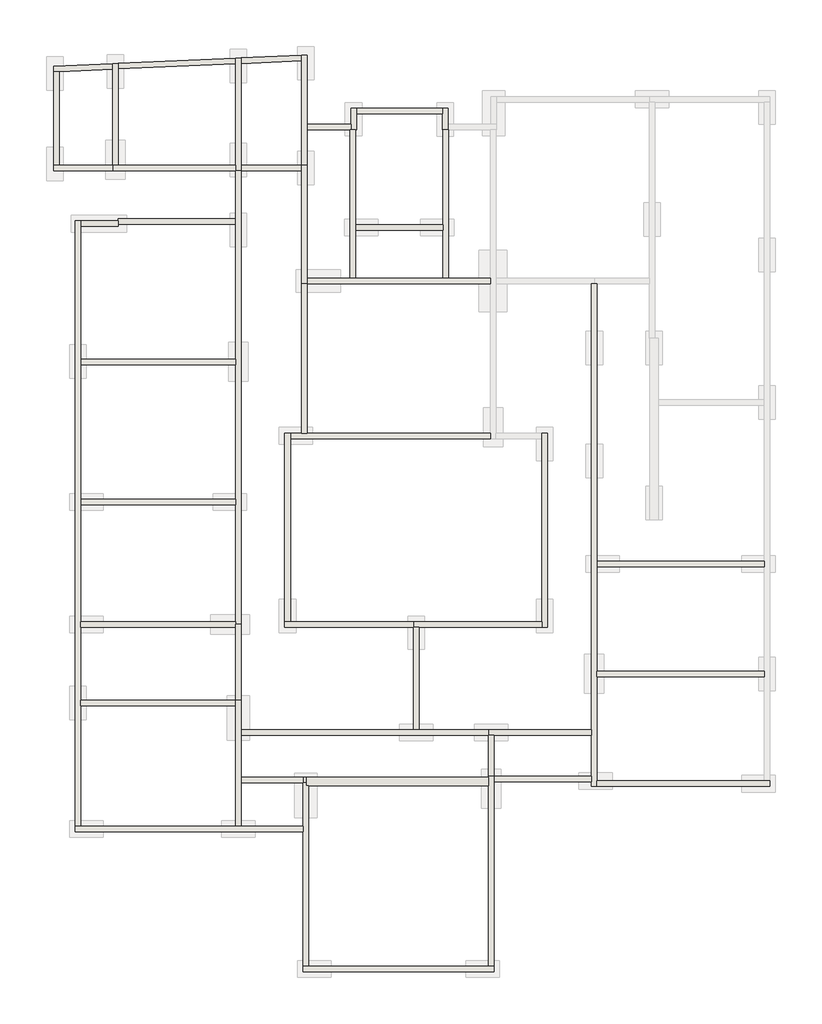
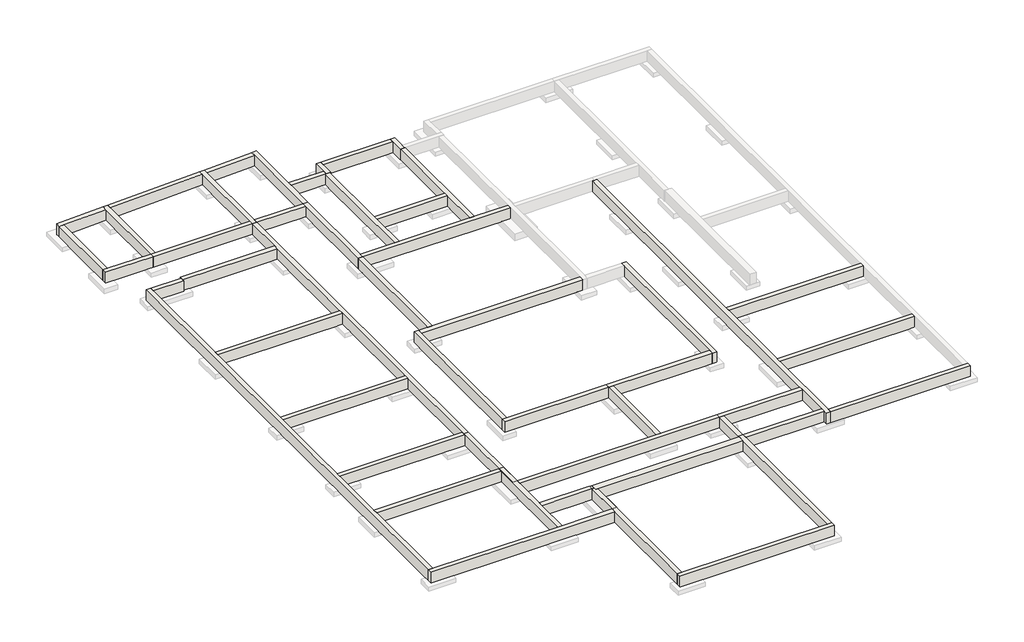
# One storey, part 1 of 2: 54 walls.
"""IFC4 building model written with IfcOpenShell, lengths in millimetres."""

from ifc_helpers import new_model, si_unit, frame, origin, place, context, project, spatial, polyline, outline, extrude, faceted_brep, element, save

model = new_model("IFC4")

# Units and contexts
model_context = context("Model", 3, world=origin())
ifc_project = project(units=[si_unit("LENGTHUNIT", "METRE", prefix="MILLI")], contexts=[model_context])

# Site, building, storey
site = spatial("IfcSite", under=ifc_project)
building = spatial("IfcBuilding", under=site)
storey = spatial("IfcBuildingStorey", under=building, Name="Arase fondations", Elevation=-670.0)

# Walls
placement = place(None, origin())
element("IfcWall", 1, ObjectType="Ext. longrine 20 x 50", at=placement, inside=storey, context=model_context, shape_type="SweptSolid", body=[
    extrude(outline(polyline([(-8265.5383156, -5705.3410127), (-13820.5383156, -5705.3410127), (-13820.5383156, -5505.3410127), (-8265.5383156, -5505.3410127), (-8265.5383156, -5705.3410127)])), frame((0.0, 0.0, -670.0), z_axis=(0.0, 0.0, 1.0), x_axis=(1.0, 0.0, 0.0)), (0.0, 0.0, 1.0), 500.0),
])
element("IfcWall", 2, ObjectType="Ext. longrine 20 x 50", at=placement, inside=storey, context=model_context, shape_type="Brep", body=[
    faceted_brep([(-5838.9922803, -18073.3410127, -670.0), (1018.0077197, -18073.3410127, -670.0), (1018.0077197, -18073.3410127, -170.0), (-5838.9922803, -18073.3410127, -170.0), (-5838.9922803, -17873.3410127, -670.0), (-5838.9922803, -17873.3410127, -170.0), (-5638.9922803, -17873.3410127, -170.0), (818.0077197, -17873.3410127, -170.0), (1018.0077197, -17873.3410127, -170.0), (1018.0077197, -17873.3410127, -670.0), (818.0077197, -17873.3410127, -670.0), (-5638.9922803, -17873.3410127, -670.0)], [[[0, 1, 2, 3]], [[4, 5, 6, 7, 8, 9, 10, 11]], [[1, 0, 4, 11, 10, 9]], [[3, 2, 8, 7, 6, 5]], [[2, 1, 9, 8]], [[0, 3, 5, 4]]]),
])
element("IfcWall", 3, ObjectType="Ext. longrine 20 x 50", at=placement, inside=storey, context=model_context, shape_type="Brep", body=[
    faceted_brep([(818.0077197, -11046.3410127, -670.0), (818.0077197, -11095.3410127, -670.0), (818.0077197, -11395.3410127, -670.0), (818.0077197, -17873.3410127, -670.0), (818.0077197, -17873.3410127, -170.0), (818.0077197, -11395.3410127, -170.0), (818.0077197, -11095.3410127, -170.0), (818.0077197, -11046.3410127, -170.0), (1018.0077197, -11046.3410127, -670.0), (1018.0077197, -11046.3410127, -170.0), (1018.0077197, -11246.3410127, -170.0), (1018.0077197, -17873.3410127, -170.0), (1018.0077197, -17873.3410127, -670.0), (1018.0077197, -11246.3410127, -670.0)], [[[0, 1, 2, 3, 4, 5, 6, 7]], [[8, 9, 10, 11, 12, 13]], [[3, 2, 1, 0, 8, 13, 12]], [[7, 6, 5, 4, 11, 10, 9]], [[4, 3, 12, 11]], [[0, 7, 9, 8]]]),
])
element("IfcWall", 4, ObjectType="Ext. longrine 20 x 50", at=placement, inside=storey, context=model_context, shape_type="Brep", body=[
    faceted_brep([(-5638.9922803, -17873.3410127, -670.0), (-5638.9922803, -11395.3410127, -670.0), (-5638.9922803, -11395.3410127, -170.0), (-5638.9922803, -17873.3410127, -170.0), (-5838.9922803, -17873.3410127, -670.0), (-5838.9922803, -17873.3410127, -170.0), (-5838.9922803, -13045.3410127, -170.0), (-5838.9922803, -12845.3410127, -170.0), (-5838.9922803, -11295.3410127, -170.0), (-5838.9922803, -11295.3410127, -670.0), (-5838.9922803, -12845.3410127, -670.0), (-5838.9922803, -13045.3410127, -670.0), (-5738.9922803, -11295.3410127, -670.0), (-5738.9922803, -11395.3410127, -670.0), (-5738.9922803, -11395.3410127, -170.0), (-5738.9922803, -11295.3410127, -170.0)], [[[0, 1, 2, 3]], [[4, 5, 6, 7, 8, 9, 10, 11]], [[1, 0, 4, 11, 10, 9, 12, 13]], [[3, 2, 14, 15, 8, 7, 6, 5]], [[0, 3, 5, 4]], [[2, 1, 13, 14]], [[13, 12, 15, 14]], [[12, 9, 8, 15]]]),
])
element("IfcWall", 5, ObjectType="Ext. longrine 20 x 50", at=placement, inside=storey, context=model_context, shape_type="Brep", body=[
    faceted_brep([(-5838.9922803, -12845.3410127, -670.0), (-8065.5383156, -12845.3410127, -670.0), (-8265.5383156, -12845.3410127, -670.0), (-13820.5383156, -12845.3410127, -670.0), (-14020.5383156, -12845.3410127, -670.0), (-14020.5383156, -12845.3410127, -170.0), (-13820.5383156, -12845.3410127, -170.0), (-8265.5383156, -12845.3410127, -170.0), (-8065.5383156, -12845.3410127, -170.0), (-5838.9922803, -12845.3410127, -170.0), (-5838.9922803, -13045.3410127, -670.0), (-5838.9922803, -13045.3410127, -170.0), (-14020.5383156, -13045.3410127, -170.0), (-14020.5383156, -13045.3410127, -670.0)], [[[0, 1, 2, 3, 4, 5, 6, 7, 8, 9]], [[10, 11, 12, 13]], [[4, 3, 2, 1, 0, 10, 13]], [[9, 8, 7, 6, 5, 12, 11]], [[0, 9, 11, 10]], [[5, 4, 13, 12]]]),
])
element("IfcWall", 6, ObjectType="Ext. longrine 20 x 50", at=placement, inside=storey, context=model_context, shape_type="Brep", body=[
    faceted_brep([(-13820.5383156, -12845.3410127, -670.0), (-13820.5383156, -8528.3410127, -670.0), (-13820.5383156, -8328.3410127, -670.0), (-13820.5383156, -1313.3410127, -670.0), (-13820.5383156, -1113.3410127, -670.0), (-13820.5383156, 3716.6589873, -670.0), (-13820.5383156, 3916.6589873, -670.0), (-13820.5383156, 8675.6589873, -670.0), (-13820.5383156, 8875.6589873, -670.0), (-13820.5383156, 8875.6589873, -170.0), (-13820.5383156, 8675.6589873, -170.0), (-13820.5383156, 3916.6589873, -170.0), (-13820.5383156, 3716.6589873, -170.0), (-13820.5383156, -1113.3410127, -170.0), (-13820.5383156, -1313.3410127, -170.0), (-13820.5383156, -8328.3410127, -170.0), (-13820.5383156, -8528.3410127, -170.0), (-13820.5383156, -12845.3410127, -170.0), (-14020.5383156, -12845.3410127, -670.0), (-14020.5383156, -12845.3410127, -170.0), (-14020.5383156, 8875.6589873, -170.0), (-14020.5383156, 8875.6589873, -670.0)], [[[0, 1, 2, 3, 4, 5, 6, 7, 8, 9, 10, 11, 12, 13, 14, 15, 16, 17]], [[18, 19, 20, 21]], [[8, 7, 6, 5, 4, 3, 2, 1, 0, 18, 21]], [[17, 16, 15, 14, 13, 12, 11, 10, 9, 20, 19]], [[0, 17, 19, 18]], [[9, 8, 21, 20]]]),
])
element("IfcWall", 7, ObjectType="Ext. longrine 20 x 50", at=placement, inside=storey, context=model_context, shape_type="Brep", body=[
    faceted_brep([(-8065.5383156, -12845.3410127, -670.0), (-8065.5383156, -11295.3410127, -670.0), (-8065.5383156, -11095.3410127, -670.0), (-8065.5383156, -9580.3410127, -670.0), (-8065.5383156, -9380.3410127, -670.0), (-8065.5383156, -8328.3410127, -670.0), (-8065.5383156, -8328.3410127, -170.0), (-8065.5383156, -9380.3410127, -170.0), (-8065.5383156, -9580.3410127, -170.0), (-8065.5383156, -11095.3410127, -170.0), (-8065.5383156, -11295.3410127, -170.0), (-8065.5383156, -12845.3410127, -170.0), (-8265.5383156, -12845.3410127, -670.0), (-8265.5383156, -12845.3410127, -170.0), (-8265.5383156, -8528.3410127, -170.0), (-8265.5383156, -8328.3410127, -170.0), (-8265.5383156, -8328.3410127, -670.0), (-8265.5383156, -8528.3410127, -670.0)], [[[0, 1, 2, 3, 4, 5, 6, 7, 8, 9, 10, 11]], [[12, 13, 14, 15, 16, 17]], [[5, 4, 3, 2, 1, 0, 12, 17, 16]], [[11, 10, 9, 8, 7, 6, 15, 14, 13]], [[0, 11, 13, 12]], [[6, 5, 16, 15]]]),
])
element("IfcWall", 8, ObjectType="Ext. longrine 20 x 50", at=placement, inside=storey, context=model_context, shape_type="Brep", body=[
    faceted_brep([(-5738.9922803, -11095.3410127, -670.0), (-8065.5383156, -11095.3410127, -670.0), (-8065.5383156, -11095.3410127, -170.0), (-5738.9922803, -11095.3410127, -170.0), (-5738.9922803, -11295.3410127, -670.0), (-5738.9922803, -11295.3410127, -170.0), (-5838.9922803, -11295.3410127, -170.0), (-8065.5383156, -11295.3410127, -170.0), (-8065.5383156, -11295.3410127, -670.0), (-5838.9922803, -11295.3410127, -670.0)], [[[0, 1, 2, 3]], [[4, 5, 6, 7, 8, 9]], [[1, 0, 4, 9, 8]], [[3, 2, 7, 6, 5]], [[0, 3, 5, 4]], [[2, 1, 8, 7]]]),
])
element("IfcWall", 9, ObjectType="Ext. longrine 20 x 50", at=placement, inside=storey, context=model_context, shape_type="SweptSolid", body=[
    extrude(outline(polyline([(-5638.9922803, -11395.3410127), (-5638.9922803, -12845.3410127), (-5838.9922803, -12845.3410127), (-5838.9922803, -11395.3410127), (-5638.9922803, -11395.3410127)])), frame((0.0, 0.0, -670.0), z_axis=(0.0, 0.0, 1.0), x_axis=(1.0, 0.0, 0.0)), (0.0, 0.0, 1.0), 500.0),
])
element("IfcWall", 10, ObjectType="Ext. longrine 20 x 50", at=placement, inside=storey, context=model_context, shape_type="SweptSolid", body=[
    extrude(outline(polyline([(1018.0077197, -11046.3410127), (4519.0077197, -11046.3410127), (4519.0077197, -11246.3410127), (1018.0077197, -11246.3410127), (1018.0077197, -11046.3410127)])), frame((0.0, 0.0, -670.0), z_axis=(0.0, 0.0, 1.0), x_axis=(1.0, 0.0, 0.0)), (0.0, 0.0, 1.0), 500.0),
])
element("IfcWall", 11, ObjectType="Ext. longrine 20 x 50", at=placement, inside=storey, context=model_context, shape_type="Brep", body=[
    faceted_brep([(10919.0077197, -11219.3410127, -670.0), (10719.0077197, -11219.3410127, -670.0), (4719.0077197, -11219.3410127, -670.0), (4719.0077197, -11219.3410127, -170.0), (10719.0077197, -11219.3410127, -170.0), (10919.0077197, -11219.3410127, -170.0), (10919.0077197, -11419.3410127, -670.0), (10919.0077197, -11419.3410127, -170.0), (4719.0077197, -11419.3410127, -170.0), (4719.0077197, -11419.3410127, -670.0)], [[[0, 1, 2, 3, 4, 5]], [[6, 7, 8, 9]], [[2, 1, 0, 6, 9]], [[3, 2, 9, 8]], [[5, 4, 3, 8, 7]], [[0, 5, 7, 6]]]),
])
element("IfcWall", 12, ObjectType="Ext. longrine 20 x 50", at=placement, inside=storey, context=model_context, shape_type="Brep", body=[
    faceted_brep([(4519.0077197, -9380.3410127, -670.0), (818.0077197, -9380.3410127, -670.0), (818.0077197, -9380.3410127, -170.0), (4519.0077197, -9380.3410127, -170.0), (4519.0077197, -9580.3410127, -670.0), (4519.0077197, -9580.3410127, -170.0), (1018.0077197, -9580.3410127, -170.0), (818.0077197, -9580.3410127, -170.0), (818.0077197, -9580.3410127, -670.0), (1018.0077197, -9580.3410127, -670.0)], [[[0, 1, 2, 3]], [[4, 5, 6, 7, 8, 9]], [[1, 0, 4, 9, 8]], [[3, 2, 7, 6, 5]], [[2, 1, 8, 7]], [[0, 3, 5, 4]]]),
])
element("IfcWall", 13, ObjectType="Ext. longrine 20 x 50", at=placement, inside=storey, context=model_context, shape_type="SweptSolid", body=[
    extrude(outline(polyline([(4719.0077197, -7278.3410127), (10719.0077197, -7278.3410127), (10719.0077197, -7478.3410127), (4719.0077197, -7478.3410127), (4719.0077197, -7278.3410127)])), frame((0.0, 0.0, -670.0), z_axis=(0.0, 0.0, 1.0), x_axis=(1.0, 0.0, 0.0)), (0.0, 0.0, 1.0), 500.0),
])
element("IfcWall", 14, ObjectType="Ext. longrine 20 x 50", at=placement, inside=storey, context=model_context, shape_type="SweptSolid", body=[
    extrude(outline(polyline([(4719.0077197, -3333.3410127), (10719.0077197, -3333.3410127), (10719.0077197, -3533.3410127), (4719.0077197, -3533.3410127), (4719.0077197, -3333.3410127)])), frame((0.0, 0.0, -670.0), z_axis=(0.0, 0.0, 1.0), x_axis=(1.0, 0.0, 0.0)), (0.0, 0.0, 1.0), 500.0),
])
element("IfcWall", 15, ObjectType="Ext. longrine 20 x 50", at=placement, inside=storey, context=model_context, shape_type="SweptSolid", body=[
    extrude(outline(polyline([(4719.0077197, -7278.3410127), (10719.0077197, -7278.3410127), (10719.0077197, -7478.3410127), (4719.0077197, -7478.3410127), (4719.0077197, -7278.3410127)])), frame((0.0, 0.0, -670.0), z_axis=(0.0, 0.0, 1.0), x_axis=(1.0, 0.0, 0.0)), (0.0, 0.0, 1.0), 500.0),
])
element("IfcWall", 16, ObjectType="Ext. longrine 20 x 50", at=placement, inside=storey, context=model_context, shape_type="Brep", body=[
    faceted_brep([(4519.0077197, 6616.6589873, -670.0), (4519.0077197, -9380.3410127, -670.0), (4519.0077197, -9580.3410127, -670.0), (4519.0077197, -11419.3410127, -670.0), (4519.0077197, -11419.3410127, -170.0), (4519.0077197, -9580.3410127, -170.0), (4519.0077197, -9380.3410127, -170.0), (4519.0077197, 6616.6589873, -170.0), (4719.0077197, 6616.6589873, -670.0), (4719.0077197, 6616.6589873, -170.0), (4719.0077197, -3333.3410127, -170.0), (4719.0077197, -3533.3410127, -170.0), (4719.0077197, -7278.3410127, -170.0), (4719.0077197, -7478.3410127, -170.0), (4719.0077197, -11419.3410127, -170.0), (4719.0077197, -11419.3410127, -670.0), (4719.0077197, -7478.3410127, -670.0), (4719.0077197, -7278.3410127, -670.0), (4719.0077197, -3533.3410127, -670.0), (4719.0077197, -3333.3410127, -670.0), (4619.0077197, 6616.6589873, -670.0), (4619.0077197, 6616.6589873, -170.0)], [[[0, 1, 2, 3, 4, 5, 6, 7]], [[8, 9, 10, 11, 12, 13, 14, 15, 16, 17, 18, 19]], [[3, 2, 1, 0, 20, 8, 19, 18, 17, 16, 15]], [[4, 3, 15, 14]], [[7, 6, 5, 4, 14, 13, 12, 11, 10, 9, 21]], [[0, 7, 21, 9, 8, 20]]]),
])
element("IfcWall", 17, ObjectType="Ext. longrine 20 x 50", at=placement, inside=storey, context=model_context, shape_type="Brep", body=[
    faceted_brep([(2935.0077197, -5705.3410127, -670.0), (2935.0077197, 1261.6589873, -670.0), (2935.0077197, 1261.6589873, -170.0), (2935.0077197, -5705.3410127, -170.0), (2735.0077197, -5705.3410127, -670.0), (2735.0077197, -5705.3410127, -170.0), (2735.0077197, -5505.3410127, -170.0), (2735.0077197, 1061.6589873, -170.0), (2735.0077197, 1261.6589873, -170.0), (2735.0077197, 1261.6589873, -670.0), (2735.0077197, 1061.6589873, -670.0), (2735.0077197, -5505.3410127, -670.0)], [[[0, 1, 2, 3]], [[4, 5, 6, 7, 8, 9, 10, 11]], [[1, 0, 4, 11, 10, 9]], [[3, 2, 8, 7, 6, 5]], [[0, 3, 5, 4]], [[2, 1, 9, 8]]]),
])
element("IfcWall", 18, ObjectType="Ext. longrine 20 x 50", at=placement, inside=storey, context=model_context, shape_type="Brep", body=[
    faceted_brep([(2735.0077197, -5505.3410127, -670.0), (-1873.2652979, -5505.3410127, -670.0), (-1873.2652979, -5505.3410127, -170.0), (2735.0077197, -5505.3410127, -170.0), (2735.0077197, -5705.3410127, -670.0), (2735.0077197, -5705.3410127, -170.0), (-1673.2652979, -5705.3410127, -170.0), (-1873.2652979, -5705.3410127, -170.0), (-1873.2652979, -5705.3410127, -670.0), (-1673.2652979, -5705.3410127, -670.0)], [[[0, 1, 2, 3]], [[4, 5, 6, 7, 8, 9]], [[1, 0, 4, 9, 8]], [[3, 2, 7, 6, 5]], [[0, 3, 5, 4]], [[2, 1, 8, 7]]]),
])
element("IfcWall", 19, ObjectType="Ext. longrine 20 x 50", at=placement, inside=storey, context=model_context, shape_type="SweptSolid", body=[
    extrude(outline(polyline([(-1873.2652979, -9380.3410127), (-1873.2652979, -5705.3410127), (-1673.2652979, -5705.3410127), (-1673.2652979, -9380.3410127), (-1873.2652979, -9380.3410127)])), frame((0.0, 0.0, -670.0), z_axis=(0.0, 0.0, 1.0), x_axis=(1.0, 0.0, 0.0)), (0.0, 0.0, 1.0), 500.0),
])
element("IfcWall", 20, ObjectType="Ext. longrine 20 x 50", at=placement, inside=storey, context=model_context, shape_type="Brep", body=[
    faceted_brep([(-1873.2652979, -5505.3410127, -670.0), (-6294.9922803, -5505.3410127, -670.0), (-6494.9922803, -5505.3410127, -670.0), (-6494.9922803, -5505.3410127, -330.0), (-6494.9922803, -5505.3410127, -170.0), (-6294.9922803, -5505.3410127, -170.0), (-1873.2652979, -5505.3410127, -170.0), (-1873.2652979, -5705.3410127, -670.0), (-1873.2652979, -5705.3410127, -170.0), (-6494.9922803, -5705.3410127, -170.0), (-6494.9922803, -5705.3410127, -330.0), (-6494.9922803, -5705.3410127, -670.0)], [[[0, 1, 2, 3, 4, 5, 6]], [[7, 8, 9, 10, 11]], [[2, 1, 0, 7, 11]], [[6, 5, 4, 9, 8]], [[0, 6, 8, 7]], [[4, 3, 2, 11, 10, 9]]]),
])
element("IfcWall", 21, ObjectType="Ext. longrine 20 x 50", at=placement, inside=storey, context=model_context, shape_type="Brep", body=[
    faceted_brep([(-6294.9922803, -5505.3410127, -670.0), (-6294.9922803, 1061.6589873, -670.0), (-6294.9922803, 1261.6589873, -670.0), (-6294.9922803, 1261.6589873, -170.0), (-6294.9922803, 1061.6589873, -170.0), (-6294.9922803, -5505.3410127, -170.0), (-6494.9922803, -5505.3410127, -670.0), (-6494.9922803, -5505.3410127, -170.0), (-6494.9922803, 1261.6589873, -170.0), (-6494.9922803, 1261.6589873, -670.0)], [[[0, 1, 2, 3, 4, 5]], [[6, 7, 8, 9]], [[2, 1, 0, 6, 9]], [[5, 4, 3, 8, 7]], [[0, 5, 7, 6]], [[3, 2, 9, 8]]]),
])
element("IfcWall", 22, ObjectType="Ext. longrine 20 x 50", at=placement, inside=storey, context=model_context, shape_type="Brep", body=[
    faceted_brep([(818.0077197, -9380.3410127, -670.0), (-1673.2652979, -9380.3410127, -670.0), (-1873.2652979, -9380.3410127, -670.0), (-8065.5383156, -9380.3410127, -670.0), (-8065.5383156, -9380.3410127, -170.0), (-1873.2652979, -9380.3410127, -170.0), (-1673.2652979, -9380.3410127, -170.0), (818.0077197, -9380.3410127, -170.0), (818.0077197, -9580.3410127, -670.0), (818.0077197, -9580.3410127, -170.0), (-8065.5383156, -9580.3410127, -170.0), (-8065.5383156, -9580.3410127, -670.0)], [[[0, 1, 2, 3, 4, 5, 6, 7]], [[8, 9, 10, 11]], [[3, 2, 1, 0, 8, 11]], [[7, 6, 5, 4, 10, 9]], [[4, 3, 11, 10]], [[0, 7, 9, 8]]]),
])
element("IfcWall", 23, ObjectType="Ext. longrine 20 x 50", at=placement, inside=storey, context=model_context, shape_type="SweptSolid", body=[
    extrude(outline(polyline([(818.0077197, -11046.3410127), (818.0077197, -9580.3410127), (1018.0077197, -9580.3410127), (1018.0077197, -11046.3410127), (818.0077197, -11046.3410127)])), frame((0.0, 0.0, -670.0), z_axis=(0.0, 0.0, 1.0), x_axis=(1.0, 0.0, 0.0)), (0.0, 0.0, 1.0), 500.0),
])
element("IfcWall", 24, ObjectType="Ext. longrine 20 x 50", at=placement, inside=storey, context=model_context, shape_type="Brep", body=[
    faceted_brep([(-815.5383156, 12148.6589873, -670.0), (-815.5383156, 8741.6589873, -670.0), (-815.5383156, 8541.6589873, -670.0), (-815.5383156, 6816.6589873, -670.0), (-815.5383156, 6816.6589873, -170.0), (-815.5383156, 8541.6589873, -170.0), (-815.5383156, 8741.6589873, -170.0), (-815.5383156, 12148.6589873, -170.0), (-615.5383156, 12148.6589873, -670.0), (-615.5383156, 12148.6589873, -170.0), (-615.5383156, 6816.6589873, -170.0), (-615.5383156, 6816.6589873, -670.0)], [[[0, 1, 2, 3, 4, 5, 6, 7]], [[8, 9, 10, 11]], [[3, 2, 1, 0, 8, 11]], [[7, 6, 5, 4, 10, 9]], [[0, 7, 9, 8]], [[4, 3, 11, 10]]]),
])
element("IfcWall", 25, ObjectType="Ext. longrine 20 x 50", at=placement, inside=storey, context=model_context, shape_type="Brep", body=[
    faceted_brep([(-4155.5383156, 12148.6589873, -670.0), (-4155.5383156, 6816.6589873, -670.0), (-4155.5383156, 6816.6589873, -170.0), (-4155.5383156, 12148.6589873, -170.0), (-3955.5383156, 12148.6589873, -670.0), (-3955.5383156, 12148.6589873, -170.0), (-3955.5383156, 8741.6589873, -170.0), (-3955.5383156, 8541.6589873, -170.0), (-3955.5383156, 6816.6589873, -170.0), (-3955.5383156, 6816.6589873, -670.0), (-3955.5383156, 8541.6589873, -670.0), (-3955.5383156, 8741.6589873, -670.0)], [[[0, 1, 2, 3]], [[4, 5, 6, 7, 8, 9, 10, 11]], [[1, 0, 4, 11, 10, 9]], [[3, 2, 8, 7, 6, 5]], [[0, 3, 5, 4]], [[2, 1, 9, 8]]]),
])
element("IfcWall", 26, ObjectType="Ext. longrine 20 x 50", at=placement, inside=storey, context=model_context, shape_type="SweptSolid", body=[
    extrude(outline(polyline([(-3955.5383156, 8741.6589873), (-815.5383156, 8741.6589873), (-815.5383156, 8541.6589873), (-3955.5383156, 8541.6589873), (-3955.5383156, 8741.6589873)])), frame((0.0, 0.0, -670.0), z_axis=(0.0, 0.0, 1.0), x_axis=(1.0, 0.0, 0.0)), (0.0, 0.0, 1.0), 500.0),
])
element("IfcWall", 27, ObjectType="Ext. longrine 20 x 50", at=placement, inside=storey, context=model_context, shape_type="Brep", body=[
    faceted_brep([(-5886.5383156, 10866.6589873, -670.0), (-5886.5383156, 10666.6589873, -670.0), (-5886.5383156, 6616.6589873, -670.0), (-5886.5383156, 6616.6589873, -170.0), (-5886.5383156, 10666.6589873, -170.0), (-5886.5383156, 10866.6589873, -170.0), (-5686.5383156, 10866.6589873, -670.0), (-5686.5383156, 10866.6589873, -170.0), (-5686.5383156, 6616.6589873, -170.0), (-5686.5383156, 6616.6589873, -670.0)], [[[0, 1, 2, 3, 4, 5]], [[6, 7, 8, 9]], [[2, 1, 0, 6, 9]], [[3, 2, 9, 8]], [[5, 4, 3, 8, 7]], [[0, 5, 7, 6]]]),
])
element("IfcWall", 28, ObjectType="Ext. longrine 20 x 50", at=placement, inside=storey, context=model_context, shape_type="Brep", body=[
    faceted_brep([(-8265.5383156, 8946.6589873, -670.0), (-12471.5383156, 8946.6589873, -670.0), (-12471.5383156, 8946.6589873, -170.0), (-8265.5383156, 8946.6589873, -170.0), (-8265.5383156, 8746.6589873, -670.0), (-8265.5383156, 8746.6589873, -170.0), (-12471.5383156, 8746.6589873, -170.0), (-12471.5383156, 8746.6589873, -670.0), (-12471.5383156, 8875.6589873, -670.0), (-12471.5383156, 8875.6589873, -170.0)], [[[0, 1, 2, 3]], [[4, 5, 6, 7]], [[1, 0, 4, 7, 8]], [[2, 1, 8, 7, 6, 9]], [[3, 2, 9, 6, 5]], [[0, 3, 5, 4]]]),
])
element("IfcWall", 29, ObjectType="Ext. longrine 20 x 50", at=placement, inside=storey, context=model_context, shape_type="Brep", body=[
    faceted_brep([(-8265.5383156, 14710.7410678, -670.0), (-8265.5383156, 14510.5494592, -670.0), (-8265.5383156, 10866.6589873, -670.0), (-8265.5383156, 10666.6589873, -670.0), (-8265.5383156, 10666.6589873, -170.0), (-8265.5383156, 10866.6589873, -170.0), (-8265.5383156, 14510.5494592, -170.0), (-8265.5383156, 14710.7410678, -170.0), (-8065.5383156, 14719.497789, -670.0), (-8065.5383156, 14719.497789, -170.0), (-8065.5383156, 14519.3061804, -170.0), (-8065.5383156, 10866.6589873, -170.0), (-8065.5383156, 10666.6589873, -170.0), (-8065.5383156, 10666.6589873, -670.0), (-8065.5383156, 10866.6589873, -670.0), (-8065.5383156, 14519.3061804, -670.0)], [[[0, 1, 2, 3, 4, 5, 6, 7]], [[8, 9, 10, 11, 12, 13, 14, 15]], [[3, 2, 1, 0, 8, 15, 14, 13]], [[7, 6, 5, 4, 12, 11, 10, 9]], [[4, 3, 13, 12]], [[0, 7, 9, 8]]]),
])
element("IfcWall", 30, ObjectType="Ext. longrine 20 x 50", at=placement, inside=storey, context=model_context, shape_type="Brep", body=[
    faceted_brep([(-5686.5383156, 10866.6589873, -670.0), (-5686.5383156, 12148.6589873, -670.0), (-5686.5383156, 12348.6589873, -670.0), (-5686.5383156, 14823.6589873, -670.0), (-5686.5383156, 14823.6589873, -170.0), (-5686.5383156, 12714.9226283, -170.0), (-5686.5383156, 12526.6719066, -170.0), (-5686.5383156, 12348.6589873, -170.0), (-5686.5383156, 12148.6589873, -170.0), (-5686.5383156, 10866.6589873, -170.0), (-5886.5383156, 10866.6589873, -670.0), (-5886.5383156, 10866.6589873, -170.0), (-5886.5383156, 14614.7106575, -170.0), (-5886.5383156, 14814.9022661, -170.0), (-5886.5383156, 14814.9022661, -670.0), (-5886.5383156, 14614.7106575, -670.0)], [[[0, 1, 2, 3, 4, 5, 6, 7, 8, 9]], [[10, 11, 12, 13, 14, 15]], [[3, 2, 1, 0, 10, 15, 14]], [[9, 8, 7, 6, 5, 4, 13, 12, 11]], [[0, 9, 11, 10]], [[4, 3, 14, 13]]]),
])
element("IfcWall", 31, ObjectType="Ext. longrine 20 x 50", at=placement, inside=storey, context=model_context, shape_type="SweptSolid", body=[
    extrude(outline(polyline([(-8065.5383156, 10866.6589873), (-5886.5383156, 10866.6589873), (-5886.5383156, 10666.6589873), (-8065.5383156, 10666.6589873), (-8065.5383156, 10866.6589873)])), frame((0.0, 0.0, -670.0), z_axis=(0.0, 0.0, 1.0), x_axis=(1.0, 0.0, 0.0)), (0.0, 0.0, 1.0), 500.0),
])
element("IfcWall", 32, ObjectType="Ext. longrine 20 x 50", at=placement, inside=storey, context=model_context, shape_type="Brep", body=[
    faceted_brep([(-8265.5383156, 10866.6589873, -670.0), (-12475.5383156, 10866.6589873, -670.0), (-12675.5383156, 10866.6589873, -670.0), (-12675.5383156, 10866.6589873, -170.0), (-12475.5383156, 10866.6589873, -170.0), (-8265.5383156, 10866.6589873, -170.0), (-8265.5383156, 10666.6589873, -670.0), (-8265.5383156, 10666.6589873, -170.0), (-12675.5383156, 10666.6589873, -170.0), (-12675.5383156, 10666.6589873, -670.0)], [[[0, 1, 2, 3, 4, 5]], [[6, 7, 8, 9]], [[2, 1, 0, 6, 9]], [[5, 4, 3, 8, 7]], [[0, 5, 7, 6]], [[3, 2, 9, 8]]]),
])
element("IfcWall", 33, ObjectType="Ext. longrine 20 x 50", at=placement, inside=storey, context=model_context, shape_type="Brep", body=[
    faceted_brep([(-8265.5383156, 10666.6589873, -670.0), (-8265.5383156, 8946.6589873, -670.0), (-8265.5383156, 8746.6589873, -670.0), (-8265.5383156, 3916.6589873, -670.0), (-8265.5383156, 3716.6589873, -670.0), (-8265.5383156, -1113.3410127, -670.0), (-8265.5383156, -1313.3410127, -670.0), (-8265.5383156, -5605.3410127, -670.0), (-8265.5383156, -5605.3410127, -170.0), (-8265.5383156, -1313.3410127, -170.0), (-8265.5383156, -1113.3410127, -170.0), (-8265.5383156, 3716.6589873, -170.0), (-8265.5383156, 3916.6589873, -170.0), (-8265.5383156, 8746.6589873, -170.0), (-8265.5383156, 8946.6589873, -170.0), (-8265.5383156, 10666.6589873, -170.0), (-8065.5383156, 10666.6589873, -670.0), (-8065.5383156, 10666.6589873, -170.0), (-8065.5383156, -5605.3410127, -170.0), (-8065.5383156, -5605.3410127, -670.0)], [[[0, 1, 2, 3, 4, 5, 6, 7, 8, 9, 10, 11, 12, 13, 14, 15]], [[16, 17, 18, 19]], [[7, 6, 5, 4, 3, 2, 1, 0, 16, 19]], [[8, 7, 19, 18]], [[15, 14, 13, 12, 11, 10, 9, 8, 18, 17]], [[0, 15, 17, 16]]]),
])
element("IfcWall", 34, ObjectType="Ext. longrine 20 x 50", at=placement, inside=storey, context=model_context, shape_type="Brep", body=[
    faceted_brep([(-12675.5383156, 14517.6553661, -670.0), (-12675.5383156, 14317.4637575, -670.0), (-12675.5383156, 10866.6589873, -670.0), (-12675.5383156, 10866.6589873, -170.0), (-12675.5383156, 14317.4637575, -170.0), (-12675.5383156, 14517.6553661, -170.0), (-12475.5383156, 14526.4120873, -670.0), (-12475.5383156, 14526.4120873, -170.0), (-12475.5383156, 14326.2204786, -170.0), (-12475.5383156, 10866.6589873, -170.0), (-12475.5383156, 10866.6589873, -670.0), (-12475.5383156, 14326.2204786, -670.0)], [[[0, 1, 2, 3, 4, 5]], [[6, 7, 8, 9, 10, 11]], [[2, 1, 0, 6, 11, 10]], [[5, 4, 3, 9, 8, 7]], [[3, 2, 10, 9]], [[0, 5, 7, 6]]]),
])
element("IfcWall", 35, ObjectType="Ext. longrine 20 x 50", at=placement, inside=storey, context=model_context, shape_type="Brep", body=[
    faceted_brep([(-14799.5383156, 10666.6589873, -670.0), (-12675.5383156, 10666.6589873, -670.0), (-12675.5383156, 10666.6589873, -170.0), (-14799.5383156, 10666.6589873, -170.0), (-14799.5383156, 10866.6589873, -670.0), (-14799.5383156, 10866.6589873, -170.0), (-14599.5383156, 10866.6589873, -170.0), (-12675.5383156, 10866.6589873, -170.0), (-12675.5383156, 10866.6589873, -670.0), (-14599.5383156, 10866.6589873, -670.0)], [[[0, 1, 2, 3]], [[4, 5, 6, 7, 8, 9]], [[1, 0, 4, 9, 8]], [[3, 2, 7, 6, 5]], [[2, 1, 8, 7]], [[0, 3, 5, 4]]]),
])
element("IfcWall", 36, ObjectType="Ext. longrine 20 x 50", at=placement, inside=storey, context=model_context, shape_type="Brep", body=[
    faceted_brep([(-12471.5383156, 8875.6589873, -670.0), (-13820.5383156, 8875.6589873, -670.0), (-13820.5383156, 8875.6589873, -170.0), (-12471.5383156, 8875.6589873, -170.0), (-12471.5383156, 8675.6589873, -670.0), (-12471.5383156, 8675.6589873, -170.0), (-13820.5383156, 8675.6589873, -170.0), (-13820.5383156, 8675.6589873, -670.0), (-12471.5383156, 8746.6589873, -670.0), (-12471.5383156, 8746.6589873, -170.0)], [[[0, 1, 2, 3]], [[4, 5, 6, 7]], [[1, 0, 8, 4, 7]], [[3, 2, 6, 5, 9]], [[0, 3, 9, 5, 4, 8]], [[2, 1, 7, 6]]]),
])
element("IfcWall", 37, ObjectType="Ext. longrine 20 x 50", at=placement, inside=storey, context=model_context, shape_type="SweptSolid", body=[
    extrude(outline(polyline([(-13820.5383156, 3916.6589873), (-8265.5383156, 3916.6589873), (-8265.5383156, 3716.6589873), (-13820.5383156, 3716.6589873), (-13820.5383156, 3916.6589873)])), frame((0.0, 0.0, -670.0), z_axis=(0.0, 0.0, 1.0), x_axis=(1.0, 0.0, 0.0)), (0.0, 0.0, 1.0), 500.0),
])
element("IfcWall", 38, ObjectType="Ext. longrine 30 x 50", at=placement, inside=storey, context=model_context, shape_type="Brep", body=[
    faceted_brep([(-5738.9922803, -11395.3410127, -670.0), (-5638.9922803, -11395.3410127, -670.0), (818.0077197, -11395.3410127, -670.0), (818.0077197, -11395.3410127, -170.0), (-5638.9922803, -11395.3410127, -170.0), (-5738.9922803, -11395.3410127, -170.0), (-5738.9922803, -11095.3410127, -670.0), (-5738.9922803, -11095.3410127, -170.0), (818.0077197, -11095.3410127, -170.0), (818.0077197, -11095.3410127, -670.0), (-5738.9922803, -11295.3410127, -670.0), (-5738.9922803, -11295.3410127, -170.0)], [[[0, 1, 2, 3, 4, 5]], [[6, 7, 8, 9]], [[2, 1, 0, 10, 6, 9]], [[5, 4, 3, 8, 7, 11]], [[0, 5, 11, 7, 6, 10]], [[3, 2, 9, 8]]]),
])
element("IfcWall", 39, ObjectType="Ext. longrine 20 x 50", at=placement, inside=storey, context=model_context, shape_type="SweptSolid", body=[
    extrude(outline(polyline([(-13820.5383156, -8328.3410127), (-8265.5383156, -8328.3410127), (-8265.5383156, -8528.3410127), (-13820.5383156, -8528.3410127), (-13820.5383156, -8328.3410127)])), frame((0.0, 0.0, -670.0), z_axis=(0.0, 0.0, 1.0), x_axis=(1.0, 0.0, 0.0)), (0.0, 0.0, 1.0), 500.0),
])
element("IfcWall", 40, ObjectType="Ext. longrine 20 x 50", at=placement, inside=storey, context=model_context, shape_type="Brep", body=[
    faceted_brep([(884.4616844, 6816.6589873, -670.0), (-615.5383156, 6816.6589873, -670.0), (-815.5383156, 6816.6589873, -670.0), (-3955.5383156, 6816.6589873, -670.0), (-4155.5383156, 6816.6589873, -670.0), (-5685.5383156, 6816.6589873, -670.0), (-5685.5383156, 6816.6589873, -170.0), (-4155.5383156, 6816.6589873, -170.0), (-3955.5383156, 6816.6589873, -170.0), (-815.5383156, 6816.6589873, -170.0), (-615.5383156, 6816.6589873, -170.0), (884.4616844, 6816.6589873, -170.0), (884.4616844, 6616.6589873, -670.0), (884.4616844, 6616.6589873, -170.0), (-5685.5383156, 6616.6589873, -170.0), (-5685.5383156, 6616.6589873, -670.0)], [[[0, 1, 2, 3, 4, 5, 6, 7, 8, 9, 10, 11]], [[12, 13, 14, 15]], [[5, 4, 3, 2, 1, 0, 12, 15]], [[6, 5, 15, 14]], [[11, 10, 9, 8, 7, 6, 14, 13]], [[0, 11, 13, 12]]]),
])
element("IfcWall", 41, ObjectType="Ext. longrine 20 x 50", at=placement, inside=storey, context=model_context, shape_type="SweptSolid", body=[
    extrude(outline(polyline([(-5886.5383156, 1261.6589873), (-5886.5383156, 6616.6589873), (-5686.5383156, 6616.6589873), (-5686.5383156, 1261.6589873), (-5886.5383156, 1261.6589873)])), frame((0.0, 0.0, -670.0), z_axis=(0.0, 0.0, 1.0), x_axis=(1.0, 0.0, 0.0)), (0.0, 0.0, 1.0), 500.0),
])
element("IfcWall", 42, ObjectType="Ext. longrine 20 x 50", at=placement, inside=storey, context=model_context, shape_type="SweptSolid", body=[
    extrude(outline(polyline([(-8065.5383156, 14719.497789), (-5886.5383156, 14814.9022661), (-5886.5383156, 14614.7106575), (-8065.5383156, 14519.3061804), (-8065.5383156, 14719.497789)])), frame((0.0, 0.0, -670.0), z_axis=(0.0, 0.0, 1.0), x_axis=(1.0, 0.0, 0.0)), (0.0, 0.0, 1.0), 500.0),
])
element("IfcWall", 43, ObjectType="Ext. longrine 20 x 50", at=placement, inside=storey, context=model_context, shape_type="SweptSolid", body=[
    extrude(outline(polyline([(-12475.5383156, 14526.4120873), (-8265.5383156, 14710.7410678), (-8265.5383156, 14510.5494592), (-12475.5383156, 14326.2204786), (-12475.5383156, 14526.4120873)])), frame((0.0, 0.0, -670.0), z_axis=(0.0, 0.0, 1.0), x_axis=(1.0, 0.0, 0.0)), (0.0, 0.0, 1.0), 500.0),
])
element("IfcWall", 44, ObjectType="Ext. longrine 20 x 50", at=placement, inside=storey, context=model_context, shape_type="Brep", body=[
    faceted_brep([(-12675.5383156, 14517.6553661, -670.0), (-14799.5383156, 14424.6589873, -670.0), (-14799.5383156, 14424.6589873, -170.0), (-12675.5383156, 14517.6553661, -170.0), (-12675.5383156, 14317.4637575, -670.0), (-12675.5383156, 14317.4637575, -170.0), (-14599.5383156, 14233.2240998, -170.0), (-14799.5383156, 14224.4673787, -170.0), (-14799.5383156, 14224.4673787, -670.0), (-14599.5383156, 14233.2240998, -670.0)], [[[0, 1, 2, 3]], [[4, 5, 6, 7, 8, 9]], [[1, 0, 4, 9, 8]], [[3, 2, 7, 6, 5]], [[0, 3, 5, 4]], [[2, 1, 8, 7]]]),
])
element("IfcWall", 45, ObjectType="Ext. longrine 20 x 50", at=placement, inside=storey, context=model_context, shape_type="Brep", body=[
    faceted_brep([(-14799.5383156, 14224.4673787, -670.0), (-14799.5383156, 10866.6589873, -670.0), (-14799.5383156, 10866.6589873, -170.0), (-14799.5383156, 14224.4673787, -170.0), (-14599.5383156, 14233.2240998, -670.0), (-14599.5383156, 14233.2240998, -170.0), (-14599.5383156, 10866.6589873, -170.0), (-14599.5383156, 10866.6589873, -670.0), (-14749.5383156, 10866.6589873, -170.0), (-14749.5383156, 14226.656559, -170.0)], [[[0, 1, 2, 3]], [[4, 5, 6, 7]], [[1, 0, 4, 7]], [[3, 2, 8, 6, 5, 9]], [[0, 3, 9, 5, 4]], [[2, 1, 7, 6, 8]]]),
])
element("IfcWall", 46, ObjectType="Ext. longrine 20 x 50", at=placement, inside=storey, context=model_context, shape_type="SweptSolid", body=[
    extrude(outline(polyline([(-5686.5383156, 12348.6589873), (-4122.5383156, 12348.6589873), (-4122.5383156, 12148.6589873), (-5686.5383156, 12148.6589873), (-5686.5383156, 12348.6589873)])), frame((0.0, 0.0, -670.0), z_axis=(0.0, 0.0, 1.0), x_axis=(1.0, 0.0, 0.0)), (0.0, 0.0, 1.0), 500.0),
])
element("IfcWall", 47, ObjectType="Ext. longrine 20 x 50", at=placement, inside=storey, context=model_context, shape_type="SweptSolid", body=[
    extrude(outline(polyline([(-3922.5383156, 12919.6589873), (-830.5383156, 12919.6589873), (-830.5383156, 12719.6589873), (-3922.5383156, 12719.6589873), (-3922.5383156, 12919.6589873)])), frame((0.0, 0.0, -670.0), z_axis=(0.0, 0.0, 1.0), x_axis=(1.0, 0.0, 0.0)), (0.0, 0.0, 1.0), 500.0),
])
element("IfcWall", 48, ObjectType="Ext. longrine 20 x 50", at=placement, inside=storey, context=model_context, shape_type="Brep", body=[
    faceted_brep([(-6294.9922803, 1061.6589873, -670.0), (884.4616844, 1061.6589873, -670.0), (884.4616844, 1061.6589873, -170.0), (-6294.9922803, 1061.6589873, -170.0), (-6294.9922803, 1261.6589873, -670.0), (-6294.9922803, 1261.6589873, -170.0), (-5886.5383156, 1261.6589873, -170.0), (-5686.5383156, 1261.6589873, -170.0), (884.4616844, 1261.6589873, -170.0), (884.4616844, 1261.6589873, -670.0), (-5686.5383156, 1261.6589873, -670.0), (-5886.5383156, 1261.6589873, -670.0)], [[[0, 1, 2, 3]], [[4, 5, 6, 7, 8, 9, 10, 11]], [[1, 0, 4, 11, 10, 9]], [[3, 2, 8, 7, 6, 5]], [[2, 1, 9, 8]], [[0, 3, 5, 4]]]),
])
element("IfcWall", 49, ObjectType="Ext. longrine 20 x 50", at=placement, inside=storey, context=model_context, shape_type="SweptSolid", body=[
    extrude(outline(polyline([(-13820.5383156, -1113.3410127), (-8265.5383156, -1113.3410127), (-8265.5383156, -1313.3410127), (-13820.5383156, -1313.3410127), (-13820.5383156, -1113.3410127)])), frame((0.0, 0.0, -670.0), z_axis=(0.0, 0.0, 1.0), x_axis=(1.0, 0.0, 0.0)), (0.0, 0.0, 1.0), 500.0),
])
element("IfcWall", 50, ObjectType="Ext. longrine 20 x 50", at=placement, inside=storey, context=model_context, shape_type="Brep", body=[
    faceted_brep([(-4122.5383156, 12919.6589873, -670.0), (-4122.5383156, 12348.6589873, -670.0), (-4122.5383156, 12148.6589873, -670.0), (-4122.5383156, 12148.6589873, -170.0), (-4122.5383156, 12348.6589873, -170.0), (-4122.5383156, 12919.6589873, -170.0), (-3922.5383156, 12919.6589873, -670.0), (-3922.5383156, 12919.6589873, -170.0), (-3922.5383156, 12719.6589873, -170.0), (-3922.5383156, 12148.6589873, -170.0), (-3922.5383156, 12148.6589873, -670.0), (-3922.5383156, 12719.6589873, -670.0)], [[[0, 1, 2, 3, 4, 5]], [[6, 7, 8, 9, 10, 11]], [[2, 1, 0, 6, 11, 10]], [[5, 4, 3, 9, 8, 7]], [[0, 5, 7, 6]], [[3, 2, 10, 9]]]),
])
element("IfcWall", 51, ObjectType="Ext. longrine 20 x 50", at=placement, inside=storey, context=model_context, shape_type="Brep", body=[
    faceted_brep([(-830.5383156, 12919.6589873, -670.0), (-830.5383156, 12719.6589873, -670.0), (-830.5383156, 12148.6589873, -670.0), (-830.5383156, 12148.6589873, -170.0), (-830.5383156, 12719.6589873, -170.0), (-830.5383156, 12919.6589873, -170.0), (-630.5383156, 12919.6589873, -670.0), (-630.5383156, 12919.6589873, -170.0), (-630.5383156, 12348.6589873, -170.0), (-630.5383156, 12148.6589873, -170.0), (-630.5383156, 12148.6589873, -670.0), (-630.5383156, 12348.6589873, -670.0)], [[[0, 1, 2, 3, 4, 5]], [[6, 7, 8, 9, 10, 11]], [[2, 1, 0, 6, 11, 10]], [[5, 4, 3, 9, 8, 7]], [[0, 5, 7, 6]], [[3, 2, 10, 9]]]),
])
element("IfcWall", 52, ObjectType="Ext. longrine 20 x 50", at=placement, inside=storey, context=model_context, shape_type="SweptSolid", body=[
    extrude(outline(polyline([(-8065.5383156, -11095.3410127), (-5838.9922803, -11095.3410127), (-5838.9922803, -11295.3410127), (-8065.5383156, -11295.3410127), (-8065.5383156, -11095.3410127)])), frame((0.0, 0.0, -670.0), z_axis=(0.0, 0.0, 1.0), x_axis=(1.0, 0.0, 0.0)), (0.0, 0.0, 1.0), 500.0),
])
element("IfcWall", 53, ObjectType="Ext. longrine 20 x 50", at=placement, inside=storey, context=model_context, shape_type="Brep", body=[
    faceted_brep([(-12471.5383156, 8875.6589873, -670.0), (-13820.5383156, 8875.6589873, -670.0), (-13820.5383156, 8875.6589873, -170.0), (-12471.5383156, 8875.6589873, -170.0), (-12471.5383156, 8675.6589873, -670.0), (-12471.5383156, 8675.6589873, -170.0), (-13820.5383156, 8675.6589873, -170.0), (-13820.5383156, 8675.6589873, -670.0), (-12471.5383156, 8746.6589873, -670.0), (-12471.5383156, 8746.6589873, -170.0)], [[[0, 1, 2, 3]], [[4, 5, 6, 7]], [[1, 0, 8, 4, 7]], [[3, 2, 6, 5, 9]], [[0, 3, 9, 5, 4, 8]], [[2, 1, 7, 6]]]),
])
element("IfcWall", 54, ObjectType="Ext. longrine 20 x 50", at=placement, inside=storey, context=model_context, shape_type="SweptSolid", body=[
    extrude(outline(polyline([(-8265.5383156, -9380.3410127), (-8265.5383156, -5605.3410127), (-8065.5383156, -5605.3410127), (-8065.5383156, -9380.3410127), (-8265.5383156, -9380.3410127)])), frame((0.0, 0.0, -670.0), z_axis=(0.0, 0.0, 1.0), x_axis=(1.0, 0.0, 0.0)), (0.0, 0.0, 1.0), 500.0),
])

save(model, "model.ifc")
